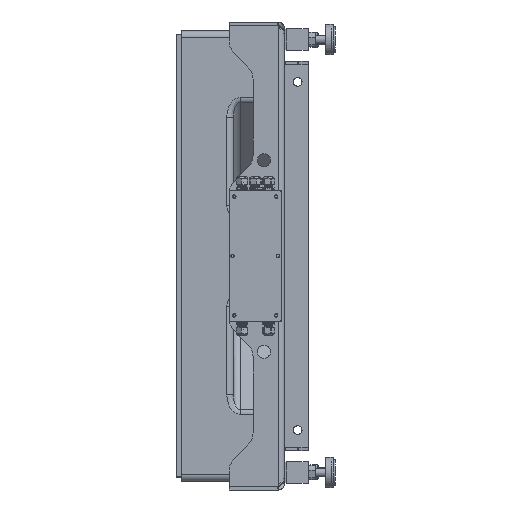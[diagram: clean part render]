
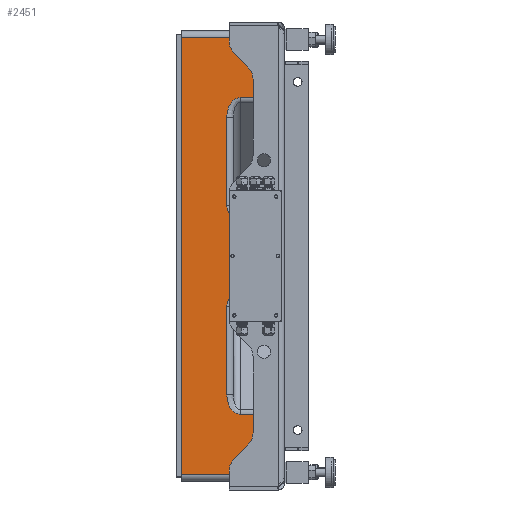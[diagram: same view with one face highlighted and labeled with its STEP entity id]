
A CAD part, left-side view. The second image highlights one B-rep face of the part: STEP entity #2451.
In plain terms, the highlighted planar face has unit normal (-1, 0, 0).
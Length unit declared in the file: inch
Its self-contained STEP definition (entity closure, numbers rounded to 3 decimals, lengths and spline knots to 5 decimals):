
#941 = CARTESIAN_POINT ( 'NONE',  ( -26., 5.75, 12.9375 ) ) ;
#2451 = ADVANCED_FACE ( 'NONE', ( #72346 ), #60552, .F. ) ;
#3637 = CARTESIAN_POINT ( 'NONE',  ( -26., 3.13, 7.97245 ) ) ;
#4547 = ORIENTED_EDGE ( 'NONE', *, *, #119090, .T. ) ;
#6002 = DIRECTION ( 'NONE',  ( -1., 0., 0. ) ) ;
#6208 = VECTOR ( 'NONE', #17177, 39.37008 ) ;
#6789 = DIRECTION ( 'NONE',  ( 0., 0., 1. ) ) ;
#8759 = ORIENTED_EDGE ( 'NONE', *, *, #128892, .T. ) ;
#9019 = CARTESIAN_POINT ( 'NONE',  ( -26., 2.37, 2.88 ) ) ;
#11106 = ORIENTED_EDGE ( 'NONE', *, *, #42921, .T. ) ;
#11308 = DIRECTION ( 'NONE',  ( 0., 0., 1. ) ) ;
#11734 = CARTESIAN_POINT ( 'NONE',  ( -26., 5.75, 9.08713 ) ) ;
#13542 = ORIENTED_EDGE ( 'NONE', *, *, #35365, .T. ) ;
#13846 = CARTESIAN_POINT ( 'NONE',  ( -26., 0.38, 9.08713 ) ) ;
#15906 = VERTEX_POINT ( 'NONE', #75418 ) ;
#17177 = DIRECTION ( 'NONE',  ( 0., -1., 0. ) ) ;
#17522 = ORIENTED_EDGE ( 'NONE', *, *, #146592, .F. ) ;
#17575 = VERTEX_POINT ( 'NONE', #36039 ) ;
#25696 = CARTESIAN_POINT ( 'NONE',  ( -26., 0.38, -9.08713 ) ) ;
#26992 = VECTOR ( 'NONE', #11308, 39.37008 ) ;
#27071 = VERTEX_POINT ( 'NONE', #62870 ) ;
#29540 = LINE ( 'NONE', #123196, #101211 ) ;
#29644 = CARTESIAN_POINT ( 'NONE',  ( -26., 5.75, 12.5575 ) ) ;
#30939 = VERTEX_POINT ( 'NONE', #58436 ) ;
#31382 = EDGE_LOOP ( 'NONE', ( #80604, #4547, #149335, #13542, #40248, #76656, #79974, #144569, #35454, #65842, #17522, #8759, #108439, #11106, #80782, #108657 ) ) ;
#31979 = CARTESIAN_POINT ( 'NONE',  ( -26., 2.37, -9.08713 ) ) ;
#32064 = DIRECTION ( 'NONE',  ( 0., 1., 0. ) ) ;
#32164 = DIRECTION ( 'NONE',  ( 0., -1., 0. ) ) ;
#35365 = EDGE_CURVE ( 'NONE', #49593, #91830, #106360, .T. ) ;
#35454 = ORIENTED_EDGE ( 'NONE', *, *, #35566, .T. ) ;
#35566 = EDGE_CURVE ( 'NONE', #27071, #76004, #144985, .T. ) ;
#36039 = CARTESIAN_POINT ( 'NONE',  ( -26., 5.75, -12.5575 ) ) ;
#36660 = LINE ( 'NONE', #25696, #86729 ) ;
#38234 = DIRECTION ( 'NONE',  ( 0., 0., 1. ) ) ;
#38907 = LINE ( 'NONE', #51484, #95032 ) ;
#39254 = EDGE_CURVE ( 'NONE', #47154, #27071, #55009, .T. ) ;
#40248 = ORIENTED_EDGE ( 'NONE', *, *, #80621, .F. ) ;
#40268 = CARTESIAN_POINT ( 'NONE',  ( -26., 2.37, 9.08713 ) ) ;
#41404 = DIRECTION ( 'NONE',  ( 0., 1., 0. ) ) ;
#42921 = EDGE_CURVE ( 'NONE', #82534, #105112, #114922, .T. ) ;
#43779 = CARTESIAN_POINT ( 'NONE',  ( -26., 0.38, 12.5575 ) ) ;
#47154 = VERTEX_POINT ( 'NONE', #147423 ) ;
#47183 = CARTESIAN_POINT ( 'NONE',  ( -26., 5.75, 12.5575 ) ) ;
#48927 = CARTESIAN_POINT ( 'NONE',  ( -26., 0.38, 12.9375 ) ) ;
#49218 =( BOUNDED_CURVE ( )  B_SPLINE_CURVE ( 3, ( #40268, #50556, #88957, #122921 ),
 .UNSPECIFIED., .F., .F. ) 
 B_SPLINE_CURVE_WITH_KNOTS ( ( 4, 4 ),
 ( 3.14159, 4.71239 ),
 .UNSPECIFIED. ) 
 CURVE ( )  GEOMETRIC_REPRESENTATION_ITEM ( )  RATIONAL_B_SPLINE_CURVE ( ( 1., 0.805, 0.805, 1. ) ) 
 REPRESENTATION_ITEM ( '' )  );
#49593 = VERTEX_POINT ( 'NONE', #50347 ) ;
#50347 = CARTESIAN_POINT ( 'NONE',  ( -26., 0.38, -9.08713 ) ) ;
#50556 = CARTESIAN_POINT ( 'NONE',  ( -26., 2.8152, 9.08713 ) ) ;
#51086 = VECTOR ( 'NONE', #32064, 39.37008 ) ;
#51484 = CARTESIAN_POINT ( 'NONE',  ( -26., 3.13, 12.9375 ) ) ;
#54172 = EDGE_CURVE ( 'NONE', #17575, #69620, #80118, .T. ) ;
#54616 = DIRECTION ( 'NONE',  ( 0., 0., -1. ) ) ;
#54825 = CARTESIAN_POINT ( 'NONE',  ( -26., 3.13, -7.97245 ) ) ;
#55009 = LINE ( 'NONE', #102936, #92666 ) ;
#57048 = CARTESIAN_POINT ( 'NONE',  ( -26., 0.38, 2.12 ) ) ;
#58436 = CARTESIAN_POINT ( 'NONE',  ( -26., 0.38, -12.5575 ) ) ;
#58923 = VECTOR ( 'NONE', #41404, 39.37008 ) ;
#59452 = VERTEX_POINT ( 'NONE', #151324 ) ;
#60183 = EDGE_CURVE ( 'NONE', #111725, #69620, #84903, .T. ) ;
#60552 = PLANE ( 'NONE',  #69287 ) ;
#60746 = CARTESIAN_POINT ( 'NONE',  ( -26., 0.38, 2.12 ) ) ;
#62870 = CARTESIAN_POINT ( 'NONE',  ( -26., 0.38, -2.12 ) ) ;
#63956 = EDGE_CURVE ( 'NONE', #30939, #49593, #36660, .T. ) ;
#65684 = EDGE_CURVE ( 'NONE', #105112, #111725, #155197, .T. ) ;
#65842 = ORIENTED_EDGE ( 'NONE', *, *, #96653, .T. ) ;
#66428 = VECTOR ( 'NONE', #142624, 39.37008 ) ;
#69287 = AXIS2_PLACEMENT_3D ( 'NONE', #941, #121924, #96723 ) ;
#69620 = VERTEX_POINT ( 'NONE', #47183 ) ;
#70706 = CARTESIAN_POINT ( 'NONE',  ( -26., 5.75, 12.9375 ) ) ;
#72346 = FACE_OUTER_BOUND ( 'NONE', #31382, .T. ) ;
#74439 = CIRCLE ( 'NONE', #94565, 0.76 ) ;
#75418 = CARTESIAN_POINT ( 'NONE',  ( -26., 2.37, 2.12 ) ) ;
#76004 = VERTEX_POINT ( 'NONE', #57048 ) ;
#76656 = ORIENTED_EDGE ( 'NONE', *, *, #140398, .T. ) ;
#79974 = ORIENTED_EDGE ( 'NONE', *, *, #133970, .F. ) ;
#80118 = LINE ( 'NONE', #70706, #138048 ) ;
#80604 = ORIENTED_EDGE ( 'NONE', *, *, #54172, .F. ) ;
#80621 = EDGE_CURVE ( 'NONE', #129521, #91830, #148526, .T. ) ;
#80782 = ORIENTED_EDGE ( 'NONE', *, *, #65684, .T. ) ;
#80895 = DIRECTION ( 'NONE',  ( 0., 0., 1. ) ) ;
#81466 = CARTESIAN_POINT ( 'NONE',  ( -26., 3.13, -8.62542 ) ) ;
#82534 = VERTEX_POINT ( 'NONE', #123044 ) ;
#82870 = CARTESIAN_POINT ( 'NONE',  ( -26., 3.13, -2.88 ) ) ;
#84903 = LINE ( 'NONE', #29644, #58923 ) ;
#86729 = VECTOR ( 'NONE', #38234, 39.37008 ) ;
#88957 = CARTESIAN_POINT ( 'NONE',  ( -26., 3.13, 8.62542 ) ) ;
#91210 = CIRCLE ( 'NONE', #93838, 0.76 ) ;
#91793 = CARTESIAN_POINT ( 'NONE',  ( -26., 5.75, 2.12 ) ) ;
#91830 = VERTEX_POINT ( 'NONE', #135491 ) ;
#92666 = VECTOR ( 'NONE', #32164, 39.37008 ) ;
#93778 = DIRECTION ( 'NONE',  ( -1., 0., 0. ) ) ;
#93838 = AXIS2_PLACEMENT_3D ( 'NONE', #9019, #93778, #104797 ) ;
#94565 = AXIS2_PLACEMENT_3D ( 'NONE', #134343, #6002, #54616 ) ;
#95032 = VECTOR ( 'NONE', #109666, 39.37008 ) ;
#96653 = EDGE_CURVE ( 'NONE', #76004, #15906, #126504, .T. ) ;
#96723 = DIRECTION ( 'NONE',  ( 0., 0., -1. ) ) ;
#99168 = CARTESIAN_POINT ( 'NONE',  ( -26., 3.13, -7.97245 ) ) ;
#101211 = VECTOR ( 'NONE', #6789, 39.37008 ) ;
#102936 = CARTESIAN_POINT ( 'NONE',  ( -26., 0., -2.12 ) ) ;
#103496 = CARTESIAN_POINT ( 'NONE',  ( -26., 5.75, -12.5575 ) ) ;
#104797 = DIRECTION ( 'NONE',  ( 0., 0., -1. ) ) ;
#105112 = VERTEX_POINT ( 'NONE', #13846 ) ;
#105354 = VECTOR ( 'NONE', #132768, 39.37008 ) ;
#106360 = LINE ( 'NONE', #118966, #66428 ) ;
#108439 = ORIENTED_EDGE ( 'NONE', *, *, #131919, .F. ) ;
#108657 = ORIENTED_EDGE ( 'NONE', *, *, #60183, .T. ) ;
#108695 = DIRECTION ( 'NONE',  ( 0., 0., 1. ) ) ;
#109234 = VERTEX_POINT ( 'NONE', #82870 ) ;
#109666 = DIRECTION ( 'NONE',  ( 0., 0., 1. ) ) ;
#111725 = VERTEX_POINT ( 'NONE', #43779 ) ;
#114922 = LINE ( 'NONE', #11734, #105354 ) ;
#116894 = CARTESIAN_POINT ( 'NONE',  ( -26., 2.8152, -9.08713 ) ) ;
#118966 = CARTESIAN_POINT ( 'NONE',  ( -26., 2.75, -9.08713 ) ) ;
#119090 = EDGE_CURVE ( 'NONE', #17575, #30939, #150805, .T. ) ;
#121924 = DIRECTION ( 'NONE',  ( 1., 0., 0. ) ) ;
#122921 = CARTESIAN_POINT ( 'NONE',  ( -26., 3.13, 7.97245 ) ) ;
#123044 = CARTESIAN_POINT ( 'NONE',  ( -26., 2.37, 9.08713 ) ) ;
#123196 = CARTESIAN_POINT ( 'NONE',  ( -26., 3.13, 12.9375 ) ) ;
#126504 = LINE ( 'NONE', #91793, #51086 ) ;
#126778 = VECTOR ( 'NONE', #108695, 39.37008 ) ;
#128892 = EDGE_CURVE ( 'NONE', #59452, #149004, #29540, .T. ) ;
#129521 = VERTEX_POINT ( 'NONE', #99168 ) ;
#131919 = EDGE_CURVE ( 'NONE', #82534, #149004, #49218, .T. ) ;
#132768 = DIRECTION ( 'NONE',  ( 0., -1., 0. ) ) ;
#133970 = EDGE_CURVE ( 'NONE', #47154, #109234, #74439, .T. ) ;
#134343 = CARTESIAN_POINT ( 'NONE',  ( -26., 2.37, -2.88 ) ) ;
#135491 = CARTESIAN_POINT ( 'NONE',  ( -26., 2.37, -9.08713 ) ) ;
#138048 = VECTOR ( 'NONE', #80895, 39.37008 ) ;
#140398 = EDGE_CURVE ( 'NONE', #129521, #109234, #38907, .T. ) ;
#142624 = DIRECTION ( 'NONE',  ( 0., 1., 0. ) ) ;
#144569 = ORIENTED_EDGE ( 'NONE', *, *, #39254, .T. ) ;
#144985 = LINE ( 'NONE', #60746, #126778 ) ;
#146592 = EDGE_CURVE ( 'NONE', #59452, #15906, #91210, .T. ) ;
#147423 = CARTESIAN_POINT ( 'NONE',  ( -26., 2.37, -2.12 ) ) ;
#148526 =( BOUNDED_CURVE ( )  B_SPLINE_CURVE ( 3, ( #54825, #81466, #116894, #31979 ),
 .UNSPECIFIED., .F., .F. ) 
 B_SPLINE_CURVE_WITH_KNOTS ( ( 4, 4 ),
 ( 4.71239, 6.28319 ),
 .UNSPECIFIED. ) 
 CURVE ( )  GEOMETRIC_REPRESENTATION_ITEM ( )  RATIONAL_B_SPLINE_CURVE ( ( 1., 0.805, 0.805, 1. ) ) 
 REPRESENTATION_ITEM ( '' )  );
#149004 = VERTEX_POINT ( 'NONE', #3637 ) ;
#149335 = ORIENTED_EDGE ( 'NONE', *, *, #63956, .T. ) ;
#150805 = LINE ( 'NONE', #103496, #6208 ) ;
#151324 = CARTESIAN_POINT ( 'NONE',  ( -26., 3.13, 2.88 ) ) ;
#155197 = LINE ( 'NONE', #48927, #26992 ) ;
